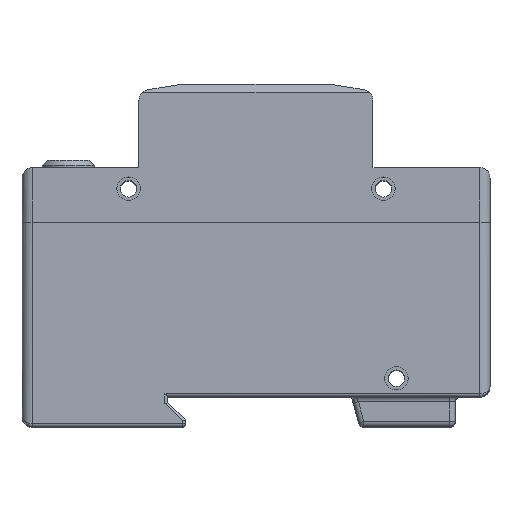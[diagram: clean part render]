
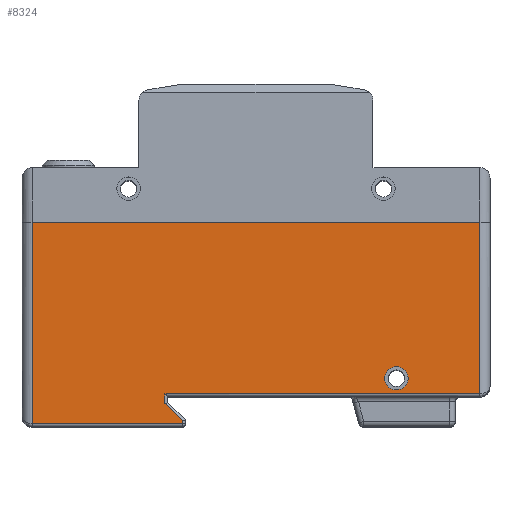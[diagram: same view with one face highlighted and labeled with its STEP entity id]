
A CAD part, top view. The second image highlights one B-rep face of the part: STEP entity #8324.
In plain terms, the highlighted planar face has unit normal (0, 0, 1).
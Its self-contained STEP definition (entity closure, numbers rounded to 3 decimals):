
#310=CIRCLE('',#9038,2.25);
#311=CIRCLE('',#9039,2.25);
#562=FACE_BOUND('',#1382,.T.);
#875=FACE_OUTER_BOUND('',#1381,.T.);
#1381=EDGE_LOOP('',(#6827,#6828,#6829,#6830,#6831,#6832,#6833,#6834));
#1382=EDGE_LOOP('',(#6835,#6836));
#2164=LINE('',#13429,#3049);
#2234=LINE('',#13592,#3119);
#2240=LINE('',#13607,#3125);
#2241=LINE('',#13609,#3126);
#2242=LINE('',#13611,#3127);
#2243=LINE('',#13613,#3128);
#2244=LINE('',#13615,#3129);
#2245=LINE('',#13616,#3130);
#3049=VECTOR('',#10755,10.);
#3119=VECTOR('',#10885,10.);
#3125=VECTOR('',#10899,10.);
#3126=VECTOR('',#10900,10.);
#3127=VECTOR('',#10901,10.);
#3128=VECTOR('',#10902,10.);
#3129=VECTOR('',#10903,10.);
#3130=VECTOR('',#10904,10.);
#3822=VERTEX_POINT('',#13426);
#3823=VERTEX_POINT('',#13428);
#3886=VERTEX_POINT('',#13590);
#3891=VERTEX_POINT('',#13606);
#3892=VERTEX_POINT('',#13608);
#3893=VERTEX_POINT('',#13610);
#3894=VERTEX_POINT('',#13612);
#3895=VERTEX_POINT('',#13614);
#3896=VERTEX_POINT('',#13617);
#3897=VERTEX_POINT('',#13618);
#4835=EDGE_CURVE('',#3823,#3822,#2164,.T.);
#4918=EDGE_CURVE('',#3886,#3822,#2234,.T.);
#4925=EDGE_CURVE('',#3891,#3886,#2240,.T.);
#4926=EDGE_CURVE('',#3892,#3891,#2241,.T.);
#4927=EDGE_CURVE('',#3893,#3892,#2242,.T.);
#4928=EDGE_CURVE('',#3894,#3893,#2243,.T.);
#4929=EDGE_CURVE('',#3895,#3894,#2244,.T.);
#4930=EDGE_CURVE('',#3823,#3895,#2245,.T.);
#4931=EDGE_CURVE('',#3896,#3897,#310,.T.);
#4932=EDGE_CURVE('',#3897,#3896,#311,.T.);
#6827=ORIENTED_EDGE('',*,*,#4835,.T.);
#6828=ORIENTED_EDGE('',*,*,#4918,.F.);
#6829=ORIENTED_EDGE('',*,*,#4925,.F.);
#6830=ORIENTED_EDGE('',*,*,#4926,.F.);
#6831=ORIENTED_EDGE('',*,*,#4927,.F.);
#6832=ORIENTED_EDGE('',*,*,#4928,.F.);
#6833=ORIENTED_EDGE('',*,*,#4929,.F.);
#6834=ORIENTED_EDGE('',*,*,#4930,.F.);
#6835=ORIENTED_EDGE('',*,*,#4931,.T.);
#6836=ORIENTED_EDGE('',*,*,#4932,.T.);
#7925=PLANE('',#9037);
#8324=ADVANCED_FACE('',(#875,#562),#7925,.T.);
#9037=AXIS2_PLACEMENT_3D('',#13605,#10897,#10898);
#9038=AXIS2_PLACEMENT_3D('',#13619,#10905,#10906);
#9039=AXIS2_PLACEMENT_3D('',#13620,#10907,#10908);
#10755=DIRECTION('',(-1.,0.,0.));
#10885=DIRECTION('',(0.,1.,0.));
#10897=DIRECTION('center_axis',(0.,0.,1.));
#10898=DIRECTION('ref_axis',(1.,0.,0.));
#10899=DIRECTION('',(-1.,0.,0.));
#10900=DIRECTION('',(0.,-1.,0.));
#10901=DIRECTION('',(0.718,-0.696,0.));
#10902=DIRECTION('',(0.,-1.,0.));
#10903=DIRECTION('',(-1.,0.,0.));
#10904=DIRECTION('',(0.,-1.,0.));
#10905=DIRECTION('center_axis',(0.,0.,-1.));
#10906=DIRECTION('ref_axis',(1.,0.,0.));
#10907=DIRECTION('center_axis',(0.,0.,-1.));
#10908=DIRECTION('ref_axis',(1.,0.,0.));
#13426=CARTESIAN_POINT('',(-43.,3.4,35.2));
#13428=CARTESIAN_POINT('',(43.,3.4,35.2));
#13429=CARTESIAN_POINT('',(0.046,3.4,35.2));
#13590=CARTESIAN_POINT('',(-43.,-35.3,35.2));
#13592=CARTESIAN_POINT('',(-43.,4.121,35.2));
#13605=CARTESIAN_POINT('Origin',(-0.355,-5.758,35.2));
#13606=CARTESIAN_POINT('',(-14.1,-35.3,35.2));
#13607=CARTESIAN_POINT('',(-22.678,-35.3,35.2));
#13608=CARTESIAN_POINT('',(-14.1,-34.711,35.2));
#13609=CARTESIAN_POINT('',(-14.1,-20.779,35.2));
#13610=CARTESIAN_POINT('',(-17.5,-31.411,35.2));
#13611=CARTESIAN_POINT('',(-17.721,-31.197,35.2));
#13612=CARTESIAN_POINT('',(-17.5,-29.5,35.2));
#13613=CARTESIAN_POINT('',(-17.5,-18.479,35.2));
#13614=CARTESIAN_POINT('',(43.,-29.5,35.2));
#13615=CARTESIAN_POINT('',(18.972,-29.5,35.2));
#13616=CARTESIAN_POINT('',(43.,-17.879,35.2));
#13617=CARTESIAN_POINT('',(29.25,-26.5,35.2));
#13618=CARTESIAN_POINT('',(24.75,-26.5,35.2));
#13619=CARTESIAN_POINT('Origin',(27.,-26.5,35.2));
#13620=CARTESIAN_POINT('Origin',(27.,-26.5,35.2));
